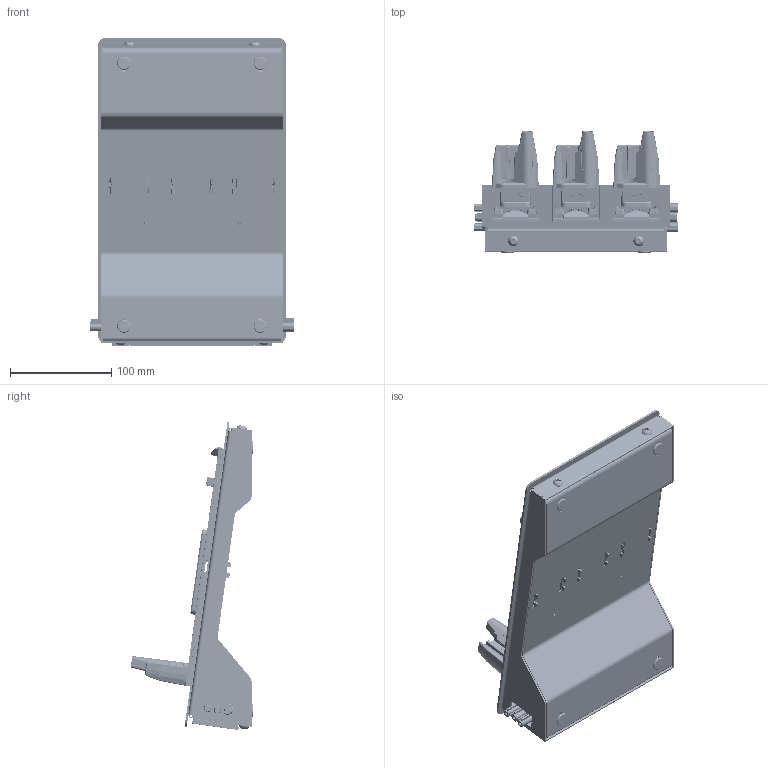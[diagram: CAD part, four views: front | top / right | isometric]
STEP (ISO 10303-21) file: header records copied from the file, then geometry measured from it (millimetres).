
FILE_DESCRIPTION(/* description */ (''),/* implementation_level */ '2;1');
FILE_NAME(/* name */ '/Users/lcraig/Downloads/QikPac-Charger base-renders only v3.step',/* time_stamp */ '2022-08-24T10:29:08+01:00',/* author */ (''),/* organization */ (''),/* preprocessor_version */ 'ST-DEVELOPER v19',/* originating_system */ 'Autodesk Translation Framework v11.7.0.108',/* authorisation */ '');
FILE_SCHEMA (('AUTOMOTIVE_DESIGN { 1 0 10303 214 3 1 1 }'));
Products named in the file (20): QikPac-Charger base-renders only; FAB-C-1865d-Base_Alt back end; FAB-C-1865d-Lid-Bottom_Default<As Machined>; FAB-C-1865d-Lid-Top; LIB092; socket button head screw_bsi_BS EN ISO 7380 - M6 x 10 - 10N; flush fastener_pmm_PEM F-M3-1 ---N; LIB203; QIKFIT PSU 1; QikPAC Connecting Shoe_4; POL370_PDR2; POL394_PDR1; POL371_PDR1; CAB041_Fitted wire; CAB040_Fitted wire; PCB015; PCB012; LIB299; LIB300; LIB303
Assembly tree (37 placements, depth 3):
  QikPac-Charger base-renders only
    FAB-C-1865d-Base_Alt back end
    FAB-C-1865d-Lid-Bottom_Default<As Machined>
    FAB-C-1865d-Lid-Top
    LIB092  x2
    socket button head screw_bsi_BS EN ISO 7380 - M6 x 10 - 10N  x4
    flush fastener_pmm_PEM F-M3-1 ---N  x6
    LIB203  x4
    QIKFIT PSU 1
    QikPAC Connecting Shoe_4  x3
      POL370_PDR2
      POL394_PDR1
      POL371_PDR1
      CAB041_Fitted wire
      CAB040_Fitted wire
      PCB015
      PCB012
      LIB299
      LIB300
      LIB303
Bounding box: 202.5 x 121.26 x 304.6 mm (x, y, z)
Volume: 666533.2 mm3; surface area: 612360.6 mm2
Topology: 149 solids, 169 shells, 23895 faces, 59082 edges, 35245 vertices
Faces by surface type: plane 8349, cylinder 8280, bspline 5573, sphere 870, torus 480, cone 343
Full cylindrical faces by diameter (mm): 1 x90, 1.016 x6, 1.05 x12, 1.2 x36, 1.5 x24, 1.65 x6, 1.75 x6, 1.8 x26, 1.9 x6, 1.96 x6, 2 x57, 2.05 x6, 2.1 x26, 2.2 x30, 2.337 x6, 2.5 x48, 2.8 x6, 3 x24, 3.4 x4, 3.556 x6, 3.763 x6, 3.937 x12, 4 x12, 4.035 x3, 4.34 x6, 4.75 x12, 5.6 x4, 6 x17, 7 x9, 7.3 x13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
Entity records: 376481 total; most frequent: CARTESIAN_POINT 148918, ORIENTED_EDGE 49354, DIRECTION 45172, EDGE_CURVE 24677, AXIS2_PLACEMENT_3D 15974, VERTEX_POINT 15004, LINE 13224, VECTOR 13224
